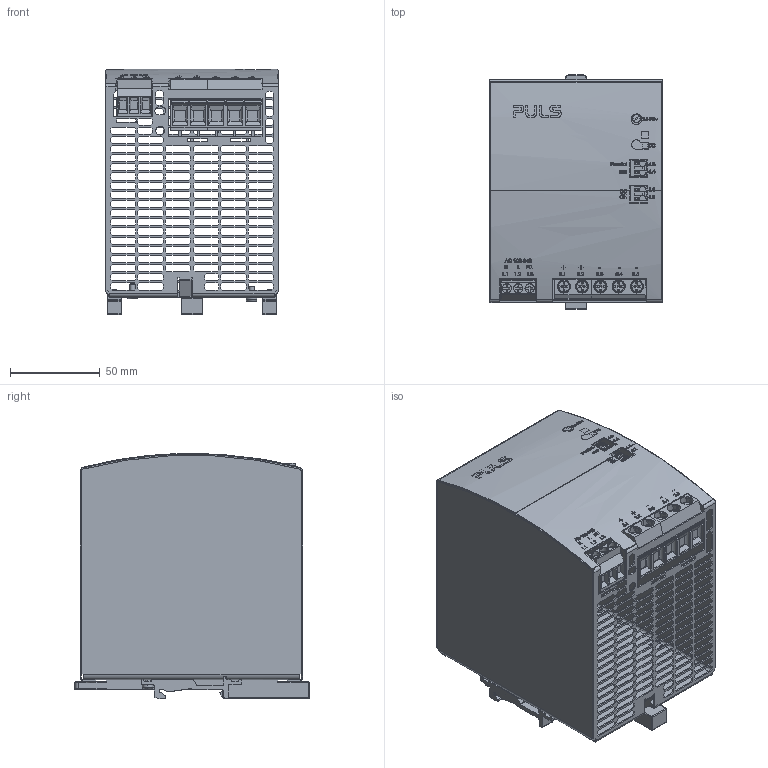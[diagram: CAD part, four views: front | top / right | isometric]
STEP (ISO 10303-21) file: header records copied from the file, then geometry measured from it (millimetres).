
FILE_DESCRIPTION (( 'STEP AP214' ), '1' );
FILE_NAME ('1025436_000.STEP', '2025-01-30T07:44:43', ( '' ), ( '' ), 'SwSTEP 2.0', 'SolidWorks 2024', '' );
FILE_SCHEMA (( 'AUTOMOTIVE_DESIGN' ));
Length unit declared in the file: millimetre
Products named in the file (10): 1025436_000; 1025570_000_Feat_Config; 1025340_000_Feat_Config; 1023362_000_EW-444_992_00; 1018355_000_Feat_Config; 1023363_000_EW-444.991.20_finished; 1023360_000_EL-444.940.00; 1018473_000_BRep_Config; 1023358_000; 1026580_000
Assembly tree (16 placements, depth 2):
  1025436_000
    1023362_000_EW-444_992_00
    1023363_000_EW-444.991.20_finished
    1023360_000_EL-444.940.00
    1018473_000_BRep_Config
    1025340_000_Feat_Config  x2
    1023358_000  x2
    1018355_000_Feat_Config
    1025570_000_Feat_Config  x6
    1026580_000
Bounding box: 96 x 130.5 x 136.5 mm (x, y, z)
Volume: 128334.2 mm3; surface area: 178671.3 mm2
Topology: 18 solids, 19 shells, 3889 faces, 11698 edges, 7980 vertices
Faces by surface type: plane 3127, cylinder 590, cone 79, bspline 69, torus 16, sphere 8
Entity records: 141070 total; most frequent: CARTESIAN_POINT 42144, ORIENTED_EDGE 21930, DIRECTION 18126, EDGE_CURVE 10965, VECTOR 8840, LINE 8840, VERTEX_POINT 7510, AXIS2_PLACEMENT_3D 4643
